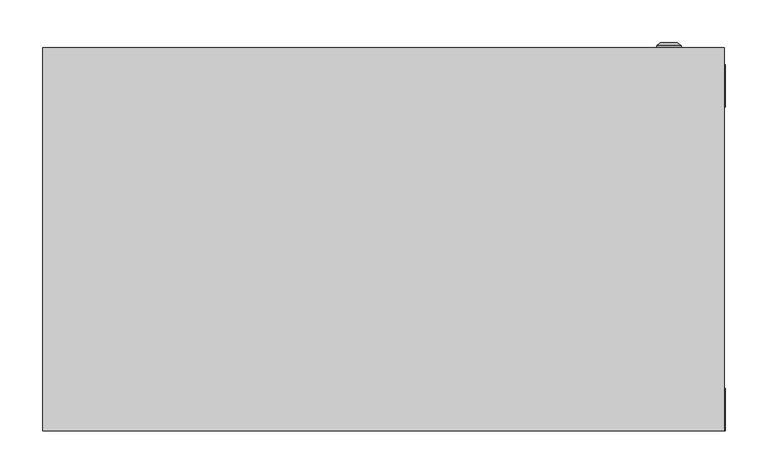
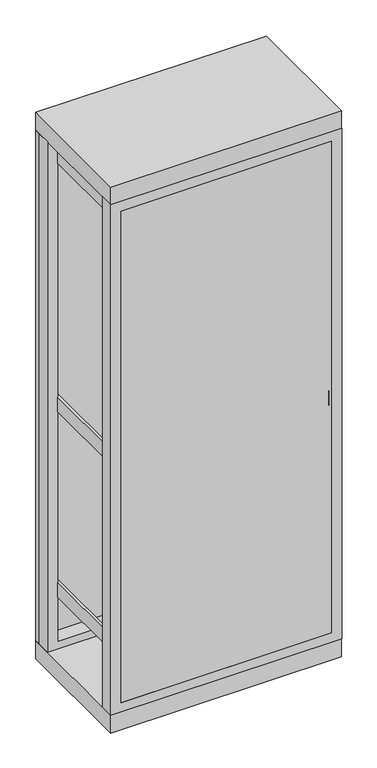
"""IFC4 building model written with IfcOpenShell, lengths in millimetres: proxy geometry, ВРУ-1 : ВРУ-1_2000х800х450."""

import ifcopenshell
import ifcopenshell.guid

model = None  # the IFC model being written
_history = None  # IfcOwnerHistory: only IFC2X3 demands one
_inside = {}  # id of a spatial element -> (the spatial element, [elements in it])
_under = {}  # id of a project, library or spatial element -> (it, [spatial elements below it])
_declared = {}  # id of a project -> (the project, [libraries it declares])
_typed = {}  # id of a type object -> (the type object, [elements of that type])
_made_of = {}  # id of a material, layer set ... -> (it, [elements and type objects made of it])


def new_model(schema):
    """Start an empty IFC model of exactly this schema.

    Asked for "IFC4X3", IfcOpenShell would pick the latest addendum, in which some entities
    have other attributes; the version numbers below select the first issue.
    IFC2X3 requires an IfcOwnerHistory on every rooted entity: one is made here for all.
    """
    global model, _history
    if schema == "IFC4X3":
        model = ifcopenshell.file(schema_version=(4, 3, 0, 0))
    else:
        model = ifcopenshell.file(schema=schema)
    _inside.clear()
    _under.clear()
    _declared.clear()
    _typed.clear()
    _made_of.clear()
    _history = None
    if model.schema == "IFC2X3":
        org = make("IfcOrganization", Name="unknown")
        user = make(
            "IfcPersonAndOrganization",
            ThePerson=make("IfcPerson", FamilyName="unknown"),
            TheOrganization=org,
        )
        app = make(
            "IfcApplication",
            ApplicationDeveloper=org,
            Version="unknown",
            ApplicationFullName="unknown",
            ApplicationIdentifier="unknown",
        )
        _history = make(
            "IfcOwnerHistory",
            OwningUser=user,
            OwningApplication=app,
            ChangeAction="ADDED",
            CreationDate=0,
        )
    return model


def make(cls, **values):
    """One entity of the class cls with the attributes given. An attribute that is None is left unset."""
    return model.create_entity(
        cls, **{name: value for name, value in values.items() if value is not None}
    )


def rooted(cls, **values):
    """An entity with a GlobalId (a new one), such as an element, a storey or a relation."""
    return make(cls, GlobalId=ifcopenshell.guid.new(), OwnerHistory=_history, **values)


def si_unit(unit_type, name, prefix=None):
    """IfcSIUnit, for example si_unit("LENGTHUNIT", "METRE", prefix="MILLI")."""
    return make("IfcSIUnit", UnitType=unit_type, Prefix=prefix, Name=name)


def assignment(units):
    """IfcUnitAssignment: the units of a project."""
    return None if units is None else make("IfcUnitAssignment", Units=units)


def point(xyz):
    """IfcCartesianPoint."""
    return None if xyz is None else make("IfcCartesianPoint", Coordinates=xyz)


def direction(xyz):
    """IfcDirection."""
    return None if xyz is None else make("IfcDirection", DirectionRatios=xyz)


def frame(location, z_axis=None, x_axis=None):
    """IfcAxis2Placement3D, a coordinate frame: its origin and axes. An axis left out is left unset."""
    return make(
        "IfcAxis2Placement3D",
        Location=point(location),
        Axis=direction(z_axis),
        RefDirection=direction(x_axis),
    )


def origin():
    """The frame at (0, 0, 0) with its axes left unset."""
    return frame((0.0, 0.0, 0.0))


def origin_with_axes():
    """The frame at (0, 0, 0) with the z axis (0, 0, 1) and the x axis (1, 0, 0) written out."""
    return frame((0.0, 0.0, 0.0), z_axis=(0.0, 0.0, 1.0), x_axis=(1.0, 0.0, 0.0))


def place(relative_to, where):
    """IfcLocalPlacement: puts the frame where relative to a parent placement (None: the world)."""
    return make(
        "IfcLocalPlacement", PlacementRelTo=relative_to, RelativePlacement=where
    )


def context(
    kind, dimensions, precision=None, world=None, true_north=None, identifier=None
):
    """IfcGeometricRepresentationContext, for example the 3D "Model" context."""
    return make(
        "IfcGeometricRepresentationContext",
        ContextIdentifier=identifier,
        ContextType=kind,
        CoordinateSpaceDimension=dimensions,
        Precision=precision,
        WorldCoordinateSystem=world,
        TrueNorth=true_north,
    )


def project(units=None, contexts=None):
    """IfcProject with its units and contexts."""
    return rooted(
        "IfcProject",
        Name="project",
        RepresentationContexts=contexts,
        UnitsInContext=assignment(units),
    )


def spatial(cls, under=None, at=None, **own):
    """A site, building, storey or space (cls), placed at a placement, below another one or the project."""
    s = rooted(cls, ObjectPlacement=at, **own)
    if under is not None:
        _under.setdefault(under.id(), (under, []))[1].append(s)
    return s


def polyline(points):
    """IfcPolyline through the points."""
    return make("IfcPolyline", Points=[point(p) for p in points])


def circle_curve(where, radius):
    """IfcCircle in the frame where."""
    return make("IfcCircle", Position=where, Radius=radius)


def outline(outer, holes=None, kind="AREA"):
    """IfcArbitraryClosedProfileDef: a profile drawn as a closed curve; with holes, ...WithVoids."""
    if holes is None:
        return make("IfcArbitraryClosedProfileDef", ProfileType=kind, OuterCurve=outer)
    return make(
        "IfcArbitraryProfileDefWithVoids",
        ProfileType=kind,
        OuterCurve=outer,
        InnerCurves=holes,
    )


def extrude(swept, where, along, depth):
    """IfcExtrudedAreaSolid: the profile swept, set in the frame where, extruded along a direction by depth."""
    return make(
        "IfcExtrudedAreaSolid",
        SweptArea=swept,
        Position=where,
        ExtrudedDirection=direction(along),
        Depth=depth,
    )


def shape(context_of_items, identifier, shape_type, items):
    """IfcShapeRepresentation: the items that make up one representation, for example the "Body"."""
    return make(
        "IfcShapeRepresentation",
        ContextOfItems=context_of_items,
        RepresentationIdentifier=identifier,
        RepresentationType=shape_type,
        Items=items,
    )


def source(mapping_origin, context_of_items, identifier, shape_type, items):
    """IfcRepresentationMap: a shape defined once, which mapped items show again and again."""
    return make(
        "IfcRepresentationMap",
        MappingOrigin=mapping_origin,
        MappedRepresentation=shape(context_of_items, identifier, shape_type, items),
    )


def transform(
    local_origin,
    x_axis=None,
    y_axis=None,
    z_axis=None,
    scale=None,
    scale2=None,
    scale3=None,
    uniform=True,
):
    """IfcCartesianTransformationOperator3D, or its non-uniform kind. x_axis, y_axis, z_axis: its Axis1, 2, 3."""
    if uniform:
        return make(
            "IfcCartesianTransformationOperator3D",
            Axis1=direction(x_axis),
            Axis2=direction(y_axis),
            LocalOrigin=point(local_origin),
            Scale=scale,
            Axis3=direction(z_axis),
        )
    return make(
        "IfcCartesianTransformationOperator3DnonUniform",
        Axis1=direction(x_axis),
        Axis2=direction(y_axis),
        LocalOrigin=point(local_origin),
        Scale=scale,
        Axis3=direction(z_axis),
        Scale2=scale2,
        Scale3=scale3,
    )


def mapped(mapping_source, mapping_target):
    """IfcMappedItem: shows the shape of a source again, moved by a transform."""
    return make(
        "IfcMappedItem", MappingSource=mapping_source, MappingTarget=mapping_target
    )


def made_of(thing, what):
    """Note that an element or type object is made of a material, layer set ...; save() writes the relation."""
    if what is not None:
        _made_of.setdefault(what.id(), (what, []))[1].append(thing)
    return thing


def element(
    cls,
    number,
    at=None,
    inside=None,
    cuts=None,
    type_object=None,
    material=None,
    context=None,
    identifier="Body",
    shape_type=None,
    held_by="IfcProductDefinitionShape",
    body=None,
    shapes=None,
    **own,
):
    """One element of the class cls, such as IfcWall. Its Tag is "e" and its number.

    at: its placement. inside: the storey or other place that contains it. cuts: it is an
    opening in that element (IfcRelVoidsElement). A single representation is given by context,
    identifier, shape_type and body (its items); several are given by shapes. held_by: the class
    of the entity that holds the representations. save() writes the other relations.
    """
    e = rooted(cls, Tag="e%d" % number, ObjectPlacement=at, **own)
    if body is not None:
        shapes = [shape(context, identifier, shape_type, body)]
    if shapes is not None:
        e.Representation = make(held_by, Representations=shapes)
    if inside is not None:
        _inside.setdefault(inside.id(), (inside, []))[1].append(e)
    if cuts is not None:
        rooted(
            "IfcRelVoidsElement", RelatingBuildingElement=cuts, RelatedOpeningElement=e
        )
    if type_object is not None:
        _typed.setdefault(type_object.id(), (type_object, []))[1].append(e)
    return made_of(e, material)


def aggregate(whole, parts):
    """IfcRelAggregates: a whole, such as a stair, and the parts it consists of."""
    return rooted("IfcRelAggregates", RelatingObject=whole, RelatedObjects=parts)


def save(model, path):
    """Write the relations noted so far, then the file.

    IfcRelAggregates (storeys below a building ...), IfcRelContainedInSpatialStructure (elements
    in a storey), IfcRelDefinesByType, IfcRelAssociatesMaterial and IfcRelDeclares: one each for
    every whole, place, type object, material and project.
    """
    for whole, parts in _under.values():
        aggregate(whole, parts)
    for where, things in _inside.values():
        rooted(
            "IfcRelContainedInSpatialStructure",
            RelatedElements=things,
            RelatingStructure=where,
        )
    for kind, things in _typed.values():
        rooted("IfcRelDefinesByType", RelatedObjects=things, RelatingType=kind)
    for what, things in _made_of.values():
        rooted("IfcRelAssociatesMaterial", RelatedObjects=things, RelatingMaterial=what)
    for by, libraries in _declared.values():
        rooted("IfcRelDeclares", RelatingContext=by, RelatedDefinitions=libraries)
    model.write(path)


def plane_surface(at):
    """IfcPlane: the flat surface through the origin of the frame at, square to its z axis."""
    return make("IfcPlane", Position=at)


def cylinder_surface(at, radius):
    """IfcCylindricalSurface: all points at the distance radius from the z axis of the frame at."""
    return make("IfcCylindricalSurface", Position=at, Radius=radius)


def revolved_surface(curve, axis_point, axis_direction):
    """IfcSurfaceOfRevolution: the curve turned about the line through axis_point along axis_direction."""
    return make(
        "IfcSurfaceOfRevolution",
        SweptCurve=make("IfcArbitraryOpenProfileDef", ProfileType="CURVE", Curve=curve),
        AxisPosition=make("IfcAxis1Placement", Location=point(axis_point), Axis=direction(axis_direction)),
    )


def advanced_brep(points, edges, surfaces, faces):
    """IfcAdvancedBrep: a solid bounded by faces that lie on surfaces and meet in shared edges.

    An edge is (start, end): straight between two places in points (the first is 0);
    or (start, end, curve); or (start, end, curve, False) where it runs against its curve.
    A face is (place in surfaces, loops), or (place, loops, False) where it looks against
    its surface's normal. A loop lists edges by number (the first is 1), with a minus sign
    where the edge is run from its end to its start. The first loop is the outer one.
    """
    corners = [point(p) for p in points]
    vertices = [make("IfcVertexPoint", VertexGeometry=c) for c in corners]
    made = []
    for start, end, *more in edges:
        made.append(
            make(
                "IfcEdgeCurve",
                EdgeStart=vertices[start],
                EdgeEnd=vertices[end],
                EdgeGeometry=more[0] if more else make("IfcPolyline", Points=[corners[start], corners[end]]),
                SameSense=more[1] if len(more) > 1 else True,
            )
        )
    hull = []
    for where, loops, *sense in faces:
        bounds = []
        for j, loop in enumerate(loops):
            ring = [make("IfcOrientedEdge", EdgeElement=made[abs(k) - 1], Orientation=k > 0) for k in loop]
            bounds.append(
                make(
                    "IfcFaceOuterBound" if j == 0 else "IfcFaceBound",
                    Bound=make("IfcEdgeLoop", EdgeList=ring),
                    Orientation=True,
                )
            )
        hull.append(make("IfcAdvancedFace", Bounds=bounds, FaceSurface=surfaces[where], SameSense=sense[0] if sense else True))
    return make("IfcAdvancedBrep", Outer=make("IfcClosedShell", CfsFaces=hull))


def electrical_equipment_65a7c867(model_context):
    return source(origin(), model_context, "Body", "SolidModel", [
        extrude(outline(polyline([(365.8707865, 0.0), (-363.3426966, 0.0), (-363.3426966, 10.0), (365.8707865, 10.0), (365.8707865, 0.0)])), frame((0.0, 0.0, 99.1378449), z_axis=(0.0, 0.0, 1.0), x_axis=(1.0, 0.0, 0.0)), (0.0, 0.0, 1.0), 1799.6160511),
        extrude(outline(polyline([(-355.8707865, 125.9831461), (-315.8707865, 125.9831461), (-315.8707865, 93.1179775), (-318.8707865, 93.1179775), (-318.8707865, 122.9831461), (-352.8707865, 122.9831461), (-352.8707865, 93.1179775), (-355.8707865, 93.1179775), (-355.8707865, 125.9831461)])), frame((0.0, 0.0, 189.6067416), z_axis=(0.0, 0.0, 1.0), x_axis=(1.0, 0.0, 0.0)), (0.0, 0.0, 1.0), 1745.3932584),
        extrude(outline(polyline([(315.8707865, 125.9831461), (355.8707865, 125.9831461), (355.8707865, 93.1179775), (352.8707865, 93.1179775), (352.8707865, 122.9831461), (318.8707865, 122.9831461), (318.8707865, 93.1179775), (315.8707865, 93.1179775), (315.8707865, 125.9831461)])), frame((0.0, 0.0, 189.6067416), z_axis=(0.0, 0.0, 1.0), x_axis=(1.0, 0.0, 0.0)), (0.0, 0.0, 1.0), 1745.3932584),
        extrude(outline(polyline([(-355.8707865, 10.0), (-365.8707865, 10.0), (-365.8707865, 430.0), (-355.8707865, 430.0), (-355.8707865, 10.0)])), frame((0.0, 0.0, 1845.5966059), z_axis=(0.0, 0.0, 1.0), x_axis=(1.0, 0.0, 0.0)), (0.0, 0.0, 1.0), 53.0898876),
        extrude(outline(polyline([(365.8707865, 10.0), (355.8707865, 10.0), (355.8707865, 430.0), (365.8707865, 430.0), (365.8707865, 10.0)])), frame((0.0, 0.0, 1845.5966059), z_axis=(0.0, 0.0, 1.0), x_axis=(1.0, 0.0, 0.0)), (0.0, 0.0, 1.0), 53.0898876),
        extrude(outline(polyline([(-355.8707865, 10.0), (-365.8707865, 10.0), (-365.8707865, 430.0), (-355.8707865, 430.0), (-355.8707865, 10.0)])), frame((0.0, 0.0, 255.5966059), z_axis=(0.0, 0.0, 1.0), x_axis=(1.0, 0.0, 0.0)), (0.0, 0.0, 1.0), 53.0898876),
        extrude(outline(polyline([(365.8707865, 10.0), (355.8707865, 10.0), (355.8707865, 430.0), (365.8707865, 430.0), (365.8707865, 10.0)])), frame((0.0, 0.0, 255.5966059), z_axis=(0.0, 0.0, 1.0), x_axis=(1.0, 0.0, 0.0)), (0.0, 0.0, 1.0), 53.0898876),
        extrude(outline(polyline([(-355.8707865, 10.0), (-365.8707865, 10.0), (-365.8707865, 430.0), (-355.8707865, 430.0), (-355.8707865, 10.0)])), frame((0.0, 0.0, 935.5966059), z_axis=(0.0, 0.0, 1.0), x_axis=(1.0, 0.0, 0.0)), (0.0, 0.0, 1.0), 53.0898876),
        extrude(outline(polyline([(365.8707865, 0.0), (355.8707865, 0.0), (355.8707865, 430.0), (365.8707865, 430.0), (365.8707865, 0.0)])), frame((0.0, 0.0, 935.5966059), z_axis=(0.0, 0.0, 1.0), x_axis=(1.0, 0.0, 0.0)), (0.0, 0.0, 1.0), 53.0898876),
        extrude(outline(polyline([(1934.1471543, -400.0), (65.0187804, -400.0), (65.0187804, 401.2640449), (1934.1471543, 401.2640449), (1934.1471543, -400.0)]), holes=[polyline([(99.1378449, 365.8707865), (99.1378449, -363.3426966), (1898.7538959, -363.3426966), (1898.7538959, 365.8707865), (99.1378449, 365.8707865)])]), frame((0.0, 0.0, 0.0), z_axis=(0.0, 1.0, 0.0), x_axis=(0.0, 0.0, 1.0)), (0.0, 0.0, 1.0), 50.0),
        extrude(outline(polyline([(1935.0, -400.0), (65.0187804, -400.0), (65.0187804, 401.2640449), (1935.0, 401.2640449), (1935.0, -400.0)]), holes=[polyline([(93.3701084, 365.8707865), (93.3701084, -363.3426966), (1892.9861595, -363.3426966), (1892.9861595, 365.8707865), (93.3701084, 365.8707865)])]), frame((0.0, 380.0, 0.0), z_axis=(0.0, 1.0, 0.0), x_axis=(0.0, 0.0, 1.0)), (0.0, 0.0, 1.0), 50.0),
        extrude(outline(polyline([(400.0067809, 450.0), (400.0067809, 0.0), (-400.0, 0.0), (-400.0, 450.0), (400.0067809, 450.0)])), frame((0.0, 0.0, 1935.0), z_axis=(0.0, 0.0, 1.0), x_axis=(1.0, 0.0, 0.0)), (0.0, 0.0, 1.0), 65.0),
        advanced_brep(
        [(320.669873, 450.0, 515.0), (349.330127, 450.0, 515.0), (335.0, 450.0, 515.0), (320.669873, 452.366592, 515.0), (349.330127, 452.366592, 515.0), (325.0, 456.0, 515.0), (345.0, 456.0, 515.0), (333.1080471, 456.0, 515.0), (336.8919529, 456.0, 515.0), (333.1080471, 454.9822294, 515.0), (336.8919529, 454.9822294, 515.0), (335.0, 454.9822294, 515.0)],
        [
            (0, 1, circle_curve(frame((335.0, 450.0, 515.0), z_axis=(0.0, -1.0, 0.0), x_axis=(1.0, 0.0, 0.0)), 14.330127)),
            (1, 2),
            (2, 0),
            (1, 0, circle_curve(frame((335.0, 450.0, 515.0), z_axis=(0.0, -1.0, 0.0), x_axis=(1.0, 0.0, 0.0)), 14.330127)),
            (3, 4, circle_curve(frame((335.0, 452.366592, 515.0), z_axis=(0.0, -1.0, 0.0), x_axis=(1.0, 0.0, 0.0)), 14.330127)),
            (4, 1),
            (0, 3),
            (4, 3, circle_curve(frame((335.0, 452.366592, 515.0), z_axis=(0.0, -1.0, 0.0), x_axis=(1.0, 0.0, 0.0)), 14.330127)),
            (5, 6, circle_curve(frame((335.0, 456.0, 515.0), z_axis=(0.0, -1.0, 0.0), x_axis=(1.0, 0.0, 0.0)), 10.0)),
            (6, 4),
            (3, 5),
            (6, 5, circle_curve(frame((335.0, 456.0, 515.0), z_axis=(0.0, -1.0, 0.0), x_axis=(1.0, 0.0, 0.0)), 10.0)),
            (7, 8, circle_curve(frame((335.0, 456.0, 515.0), z_axis=(0.0, -1.0, 0.0), x_axis=(1.0, 0.0, 0.0)), 1.8919529)),
            (8, 6),
            (5, 7),
            (8, 7, circle_curve(frame((335.0, 456.0, 515.0), z_axis=(0.0, -1.0, 0.0), x_axis=(1.0, 0.0, 0.0)), 1.8919529)),
            (9, 10, circle_curve(frame((335.0, 454.9822294, 515.0), z_axis=(0.0, -1.0, 0.0), x_axis=(1.0, 0.0, 0.0)), 1.8919529)),
            (10, 8),
            (7, 9),
            (10, 9, circle_curve(frame((335.0, 454.9822294, 515.0), z_axis=(0.0, -1.0, 0.0), x_axis=(1.0, 0.0, 0.0)), 1.8919529)),
            (11, 10),
            (9, 11),
        ],
        [
            plane_surface(frame((335.0, 450.0, 515.0), z_axis=(0.0, -1.0, 0.0), x_axis=(1.0, 0.0, 0.0))),
            cylinder_surface(frame((335.0, 463.1348851, 515.0), z_axis=(0.0, 1.0, 0.0), x_axis=(1.0, 0.0, 0.0)), 14.330127),
            revolved_surface(polyline([(349.330127, 452.366592, 515.0), (345.0, 456.0, 515.0)]), (335.0, 463.1348851, 515.0), (0.0, 1.0, 0.0)),
            plane_surface(frame((335.0, 456.0, 515.0), z_axis=(0.0, 1.0, 0.0), x_axis=(1.0, 0.0, 0.0))),
            revolved_surface(polyline([(336.8919529, 456.0, 515.0), (336.8919529, 454.9822294, 515.0)]), (335.0, 463.1348851, 515.0), (0.0, 1.0, 0.0)),
            plane_surface(frame((335.0, 454.9822294, 515.0), z_axis=(0.0, 1.0, 0.0), x_axis=(1.0, 0.0, 0.0))),
        ],
        [
            (0, [[1, 2, 3]]),
            (0, [[4, -3, -2]]),
            (1, [[5, 6, -1, 7]]),
            (1, [[8, -7, -4, -6]]),
            (2, [[9, 10, -5, 11]]),
            (2, [[12, -11, -8, -10]]),
            (3, [[13, 14, -9, 15]]),
            (3, [[16, -15, -12, -14]]),
            (4, [[17, 18, -13, 19]]),
            (4, [[20, -19, -16, -18]]),
            (5, [[21, -17, 22]]),
            (5, [[-22, -20, -21]]),
        ],
    ),
        advanced_brep(
        [(320.669873, 450.0, 1485.0), (349.330127, 450.0, 1485.0), (335.0, 450.0, 1485.0), (320.669873, 452.366592, 1485.0), (349.330127, 452.366592, 1485.0), (325.0, 456.0, 1485.0), (345.0, 456.0, 1485.0), (333.1080471, 456.0, 1485.0), (336.8919529, 456.0, 1485.0), (333.1080471, 454.9822294, 1485.0), (336.8919529, 454.9822294, 1485.0), (335.0, 454.9822294, 1485.0)],
        [
            (0, 1, circle_curve(frame((335.0, 450.0, 1485.0), z_axis=(0.0, -1.0, 0.0), x_axis=(1.0, 0.0, 0.0)), 14.330127)),
            (1, 2),
            (2, 0),
            (1, 0, circle_curve(frame((335.0, 450.0, 1485.0), z_axis=(0.0, -1.0, 0.0), x_axis=(1.0, 0.0, 0.0)), 14.330127)),
            (3, 4, circle_curve(frame((335.0, 452.366592, 1485.0), z_axis=(0.0, -1.0, 0.0), x_axis=(1.0, 0.0, 0.0)), 14.330127)),
            (4, 1),
            (0, 3),
            (4, 3, circle_curve(frame((335.0, 452.366592, 1485.0), z_axis=(0.0, -1.0, 0.0), x_axis=(1.0, 0.0, 0.0)), 14.330127)),
            (5, 6, circle_curve(frame((335.0, 456.0, 1485.0), z_axis=(0.0, -1.0, 0.0), x_axis=(1.0, 0.0, 0.0)), 10.0)),
            (6, 4),
            (3, 5),
            (6, 5, circle_curve(frame((335.0, 456.0, 1485.0), z_axis=(0.0, -1.0, 0.0), x_axis=(1.0, 0.0, 0.0)), 10.0)),
            (7, 8, circle_curve(frame((335.0, 456.0, 1485.0), z_axis=(0.0, -1.0, 0.0), x_axis=(1.0, 0.0, 0.0)), 1.8919529)),
            (8, 6),
            (5, 7),
            (8, 7, circle_curve(frame((335.0, 456.0, 1485.0), z_axis=(0.0, -1.0, 0.0), x_axis=(1.0, 0.0, 0.0)), 1.8919529)),
            (9, 10, circle_curve(frame((335.0, 454.9822294, 1485.0), z_axis=(0.0, -1.0, 0.0), x_axis=(1.0, 0.0, 0.0)), 1.8919529)),
            (10, 8),
            (7, 9),
            (10, 9, circle_curve(frame((335.0, 454.9822294, 1485.0), z_axis=(0.0, -1.0, 0.0), x_axis=(1.0, 0.0, 0.0)), 1.8919529)),
            (11, 10),
            (9, 11),
        ],
        [
            plane_surface(frame((335.0, 450.0, 1485.0), z_axis=(0.0, -1.0, 0.0), x_axis=(1.0, 0.0, 0.0))),
            cylinder_surface(frame((335.0, 463.1348851, 1485.0), z_axis=(0.0, 1.0, 0.0), x_axis=(1.0, 0.0, 0.0)), 14.330127),
            revolved_surface(polyline([(349.330127, 452.366592, 1485.0), (345.0, 456.0, 1485.0)]), (335.0, 463.1348851, 1485.0), (0.0, 1.0, 0.0)),
            plane_surface(frame((335.0, 456.0, 1485.0), z_axis=(0.0, 1.0, 0.0), x_axis=(1.0, 0.0, 0.0))),
            revolved_surface(polyline([(336.8919529, 456.0, 1485.0), (336.8919529, 454.9822294, 1485.0)]), (335.0, 463.1348851, 1485.0), (0.0, 1.0, 0.0)),
            plane_surface(frame((335.0, 454.9822294, 1485.0), z_axis=(0.0, 1.0, 0.0), x_axis=(1.0, 0.0, 0.0))),
        ],
        [
            (0, [[1, 2, 3]]),
            (0, [[4, -3, -2]]),
            (1, [[5, 6, -1, 7]]),
            (1, [[8, -7, -4, -6]]),
            (2, [[9, 10, -5, 11]]),
            (2, [[12, -11, -8, -10]]),
            (3, [[13, 14, -9, 15]]),
            (3, [[16, -15, -12, -14]]),
            (4, [[17, 18, -13, 19]]),
            (4, [[20, -19, -16, -18]]),
            (5, [[21, -17, 22]]),
            (5, [[-22, -20, -21]]),
        ],
    ),
        extrude(outline(polyline([(400.0067809, 450.0), (400.0067809, 0.0), (-400.0, 0.0), (-400.0, 450.0), (400.0067809, 450.0)])), origin_with_axes(), (0.0, 0.0, 1.0), 65.0187804),
        extrude(outline(polyline([(400.0, 430.0), (-400.0, 430.0), (-400.0, 450.0), (400.0, 450.0), (400.0, 430.0)])), frame((0.0, 0.0, 65.0187804), z_axis=(0.0, 0.0, 1.0), x_axis=(1.0, 0.0, 0.0)), (0.0, 0.0, 1.0), 1869.9812196),
    ])


if __name__ == "__main__":
    model = new_model("IFC4")
    model_context = context("Model", 3, world=origin())
    ifc_project = project(units=[si_unit("LENGTHUNIT", "METRE", prefix="MILLI")], contexts=[model_context])
    site = spatial("IfcSite", under=ifc_project)
    building = spatial("IfcBuilding", under=site)
    placement = place(None, origin())
    electrical_equipment_shape = electrical_equipment_65a7c867(model_context)
    element("IfcBuildingElementProxy", 1, Name="ВРУ-1 : ВРУ-1_2000х800х450", ObjectType="ВРУ-1 : ВРУ-1_2000х800х450", at=placement, inside=building, context=model_context, shape_type="MappedRepresentation", body=[
        mapped(electrical_equipment_shape, transform((0.0, 0.0, 0.0), x_axis=(1.0, 0.0, 0.0), y_axis=(0.0, 1.0, 0.0), z_axis=(0.0, 0.0, 1.0))),
    ])
    save(model, "model.ifc")
